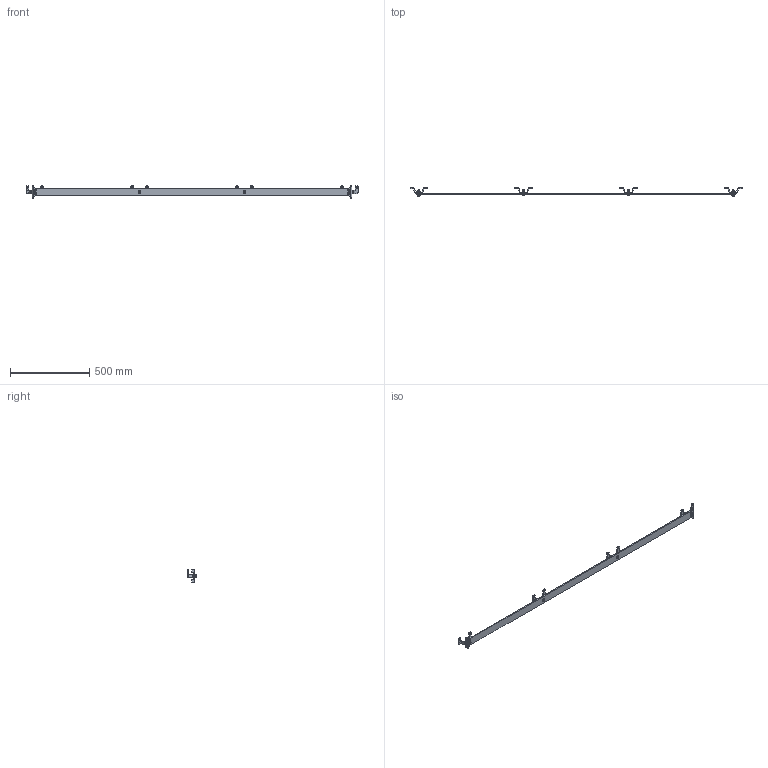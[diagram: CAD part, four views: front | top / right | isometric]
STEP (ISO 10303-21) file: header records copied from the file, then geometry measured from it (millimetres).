
FILE_DESCRIPTION(/* description */ ('Sortiment 2'),/* implementation_level */ '2;1');
FILE_NAME(/* name */ 'D:\Public\STP\010330075-TP.stp',/* time_stamp */ '2020-05-13T16:47:01+02:00',/* author */ ('M.Barta'),/* organization */ (''),/* preprocessor_version */ 'ST-DEVELOPER v17.2',/* originating_system */ 'Autodesk Inventor 2019',/* authorisation */ '');
FILE_SCHEMA (('AUTOMOTIVE_DESIGN { 1 0 10303 214 3 1 1 }'));
Length unit declared in the file: millimetre
Products named in the file (9): 010330075; 337000392; 337000389; 010330101; DIN 125 - A 8,4; DIN 127 - A 8; DIN EN ISO 4032 - M8; ISO 4017 - M8 x 35; DIN 127 - A 8_1
Assembly tree (31 placements, depth 2):
  010330075
    337000392
    337000389  x2
    010330101  x4
    DIN 125 - A 8,4  x8
    DIN 127 - A 8  x4
    DIN EN ISO 4032 - M8  x4
    ISO 4017 - M8 x 35  x4
    DIN 127 - A 8_1  x4
Bounding box: 2090 x 50.9 x 80 mm (x, y, z)
Volume: 900270.7 mm3; surface area: 296601.8 mm2
Topology: 31 solids, 31 shells, 510 faces, 1232 edges, 796 vertices
Faces by surface type: plane 294, cylinder 168, cone 44, bspline 4
Full cylindrical faces by diameter (mm): 6.647 x4, 8 x4, 8.4 x8, 8.5 x12, 11.63 x4, 16 x8
Entity records: 5019 total; most frequent: CARTESIAN_POINT 921, DIRECTION 834, ORIENTED_EDGE 732, EDGE_CURVE 366, AXIS2_PLACEMENT_3D 311, VERTEX_POINT 238, LINE 212, VECTOR 212
